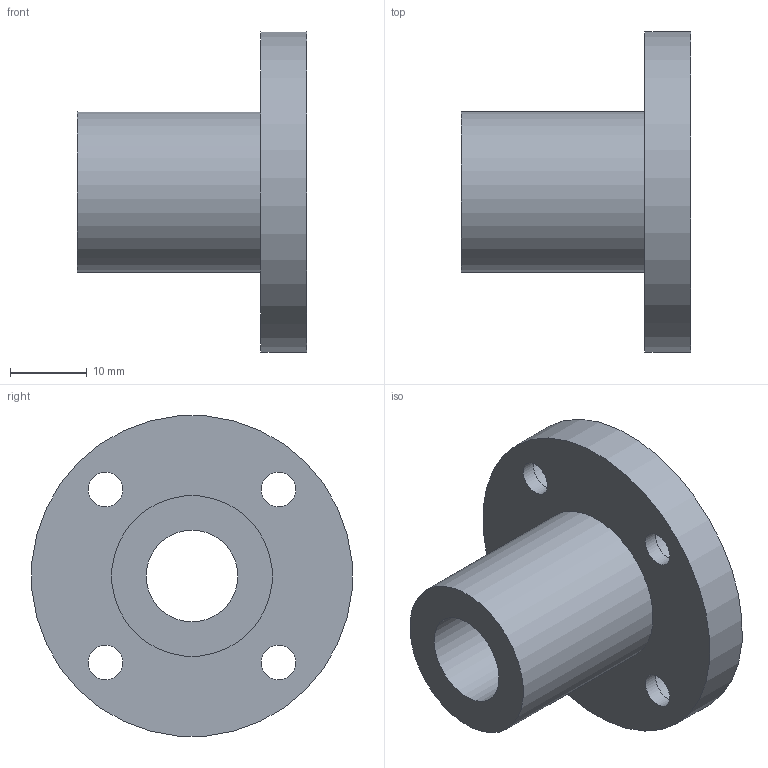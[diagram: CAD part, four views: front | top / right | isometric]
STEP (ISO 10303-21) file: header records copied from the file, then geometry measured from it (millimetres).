
FILE_DESCRIPTION(/* description */ (''),/* implementation_level */ '2;1');
FILE_NAME(/* name */ 'LMF12UU',/* time_stamp */ '2019-07-03T09:07:58+02:00',/* author */ ('VĂ©gh MĂˇtĂ©'),/* organization */ ('Bearing Kft'),/* preprocessor_version */ 'ST-DEVELOPER v16.7',/* originating_system */ 'DEX',/* authorisation */ $);
FILE_SCHEMA (('AUTOMOTIVE_DESIGN {1 0 10303 214 3 1 1}'));
Length unit declared in the file: millimetre
Products named in the file (1): LMF12UU
Bounding box: 30 x 41.84 x 41.84 mm (x, y, z)
Volume: 12385.5 mm3; surface area: 6431.9 mm2
Topology: 1 solids, 1 shells, 319 faces, 801 edges, 534 vertices
Faces by surface type: plane 247, bspline 58, cylinder 14
Full cylindrical faces by diameter (mm): 4.5 x4, 7.5 x4, 12 x1, 21 x1, 42 x1
Entity records: 12035 total; most frequent: CARTESIAN_POINT 4731, ORIENTED_EDGE 1578, DIRECTION 1225, EDGE_CURVE 789, LINE 645, VECTOR 645, VERTEX_POINT 534, EDGE_LOOP 391
